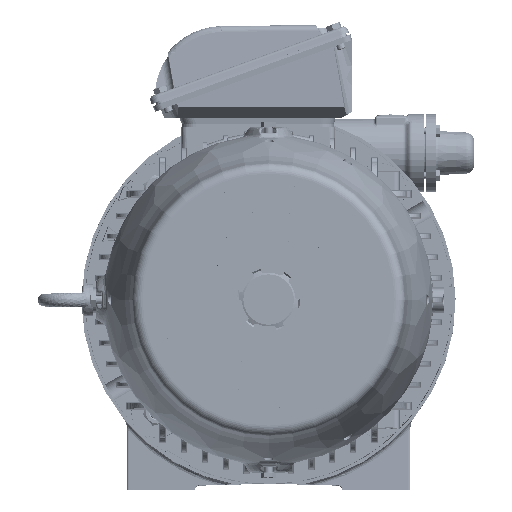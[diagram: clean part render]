
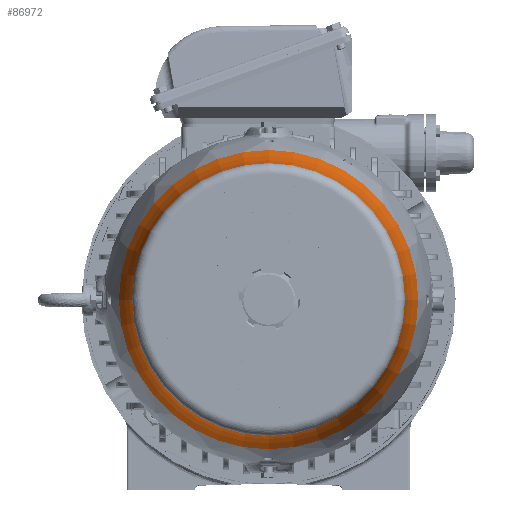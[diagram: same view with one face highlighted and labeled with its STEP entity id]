
A CAD part, top view. The second image highlights one B-rep face of the part: STEP entity #86972.
In plain terms, the highlighted toroidal (fillet/blend) face has major radius 308.616 mm and minor radius 180 mm.
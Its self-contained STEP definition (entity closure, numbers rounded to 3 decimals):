
#1848=TOROIDAL_SURFACE('',#93613,308.617,180.);
#16702=FACE_OUTER_BOUND('',#21892,.T.);
#21892=EDGE_LOOP('',(#61080,#61081,#61082,#61083,#61084,#61085));
#27581=CIRCLE('',#93594,142.487);
#27582=CIRCLE('',#93595,142.487);
#27600=CIRCLE('',#93614,180.);
#27601=CIRCLE('',#93615,129.927);
#27602=CIRCLE('',#93616,129.927);
#36245=VERTEX_POINT('',#139171);
#36246=VERTEX_POINT('',#139175);
#36280=VERTEX_POINT('',#139465);
#36281=VERTEX_POINT('',#139467);
#45612=EDGE_CURVE('',#36245,#36246,#27581,.T.);
#45613=EDGE_CURVE('',#36246,#36245,#27582,.T.);
#45648=EDGE_CURVE('',#36245,#36280,#27600,.T.);
#45649=EDGE_CURVE('',#36280,#36281,#27601,.T.);
#45650=EDGE_CURVE('',#36281,#36280,#27602,.T.);
#61080=ORIENTED_EDGE('',*,*,#45613,.F.);
#61081=ORIENTED_EDGE('',*,*,#45612,.F.);
#61082=ORIENTED_EDGE('',*,*,#45648,.T.);
#61083=ORIENTED_EDGE('',*,*,#45649,.T.);
#61084=ORIENTED_EDGE('',*,*,#45650,.T.);
#61085=ORIENTED_EDGE('',*,*,#45648,.F.);
#86972=ADVANCED_FACE('',(#16702),#1848,.F.);
#93594=AXIS2_PLACEMENT_3D('',#139176,#106471,#106472);
#93595=AXIS2_PLACEMENT_3D('',#139177,#106473,#106474);
#93613=AXIS2_PLACEMENT_3D('',#139464,#106509,#106510);
#93614=AXIS2_PLACEMENT_3D('',#139466,#106511,#106512);
#93615=AXIS2_PLACEMENT_3D('',#139468,#106513,#106514);
#93616=AXIS2_PLACEMENT_3D('',#139469,#106515,#106516);
#106471=DIRECTION('center_axis',(0.,0.,
-1.));
#106472=DIRECTION('ref_axis',(-1.,0.,0.));
#106473=DIRECTION('center_axis',(0.,0.,
-1.));
#106474=DIRECTION('ref_axis',(-1.,0.,0.));
#106509=DIRECTION('center_axis',(0.,0.,
-1.));
#106510=DIRECTION('ref_axis',(-1.,0.,0.));
#106511=DIRECTION('center_axis',(0.,1.,0.));
#106512=DIRECTION('ref_axis',(1.,0.,0.));
#106513=DIRECTION('center_axis',(0.,0.,
-1.));
#106514=DIRECTION('ref_axis',(-1.,0.,0.));
#106515=DIRECTION('center_axis',(0.,0.,
-1.));
#106516=DIRECTION('ref_axis',(-1.,0.,0.));
#139171=CARTESIAN_POINT('',(142.487,0.,611.799));
#139175=CARTESIAN_POINT('',(-142.487,0.,611.799));
#139176=CARTESIAN_POINT('Origin',(0.,0.,
611.799));
#139177=CARTESIAN_POINT('Origin',(0.,0.,
611.799));
#139464=CARTESIAN_POINT('Origin',(0.,0.,
681.087));
#139465=CARTESIAN_POINT('',(129.927,0.,659.405));
#139466=CARTESIAN_POINT('Origin',(308.617,0.,
681.087));
#139467=CARTESIAN_POINT('',(-129.927,0.,659.405));
#139468=CARTESIAN_POINT('Origin',(0.,0.,
659.405));
#139469=CARTESIAN_POINT('Origin',(0.,0.,
659.405));
